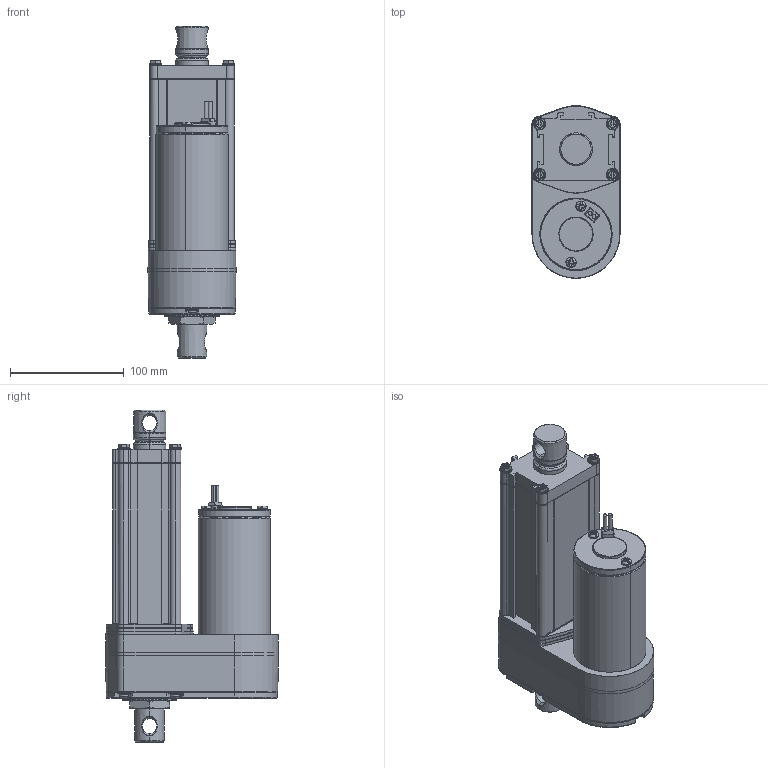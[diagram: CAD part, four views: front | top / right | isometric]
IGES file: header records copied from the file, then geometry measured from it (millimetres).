
Start section: SolidWorks IGES file using analytic representation for surfaces
Global section: file name: C:\Users\lynn\Desktop\工作用資料夾\3D CAD Models Community\0-給產品部\ID12\新增IP69K\ID12-A-100-IP69K.IGS; native system: SolidWorks 2020; preprocessor: SolidWorks 2020; author: lynn; date: 221019.165810; units: millimetre
Bounding box: 77.3 x 151.8 x 291.5 mm (x, y, z)
Surface area: 191353.2 mm2 (no closed solid volume)
Topology: 0 solids, 0 shells, 1818 faces, 17411 edges, 17383 vertices
Faces by surface type: bspline 1172, revolution 646
